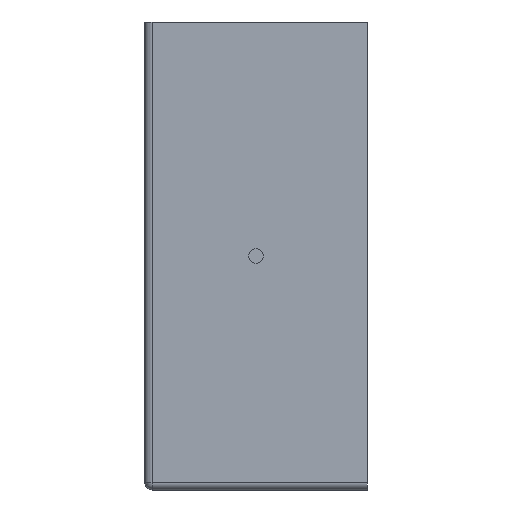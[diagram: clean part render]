
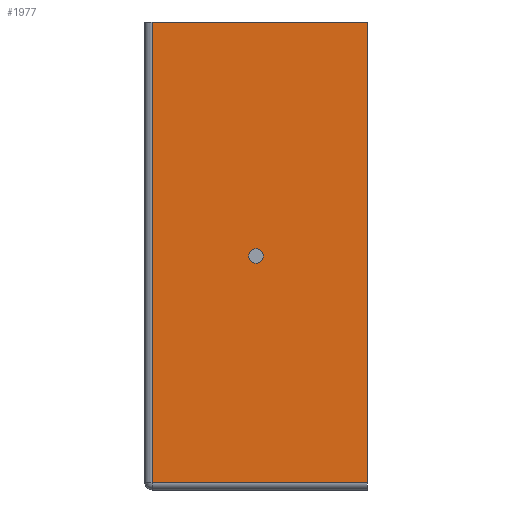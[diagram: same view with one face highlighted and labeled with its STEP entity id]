
A CAD part, left-side view. The second image highlights one B-rep face of the part: STEP entity #1977.
In plain terms, the highlighted planar face has unit normal (-1, 0, 0).
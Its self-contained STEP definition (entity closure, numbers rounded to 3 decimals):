
#79 = PLANE('',#80);
#80 = AXIS2_PLACEMENT_3D('',#81,#82,#83);
#81 = CARTESIAN_POINT('',(0.,0.,124.));
#82 = DIRECTION('',(0.,0.,-1.));
#83 = DIRECTION('',(-1.,0.,0.));
#163 = PLANE('',#164);
#164 = AXIS2_PLACEMENT_3D('',#165,#166,#167);
#165 = CARTESIAN_POINT('',(71.,-29.5,124.));
#166 = DIRECTION('',(0.,-1.,0.));
#167 = DIRECTION('',(1.,0.,0.));
#927 = EDGE_CURVE('',#928,#930,#932,.T.);
#928 = VERTEX_POINT('',#929);
#929 = CARTESIAN_POINT('',(-71.,-29.5,124.));
#930 = VERTEX_POINT('',#931);
#931 = CARTESIAN_POINT('',(-71.,-29.5,2.));
#932 = SURFACE_CURVE('',#933,(#937,#944),.PCURVE_S1.);
#933 = LINE('',#934,#935);
#934 = CARTESIAN_POINT('',(-71.,-29.5,124.));
#935 = VECTOR('',#936,1.);
#936 = DIRECTION('',(0.,0.,-1.));
#937 = PCURVE('',#163,#938);
#938 = DEFINITIONAL_REPRESENTATION('',(#939),#943);
#939 = LINE('',#940,#941);
#940 = CARTESIAN_POINT('',(-142.,0.));
#941 = VECTOR('',#942,1.);
#942 = DIRECTION('',(0.,-1.));
#943 = ( GEOMETRIC_REPRESENTATION_CONTEXT(2) 
PARAMETRIC_REPRESENTATION_CONTEXT() REPRESENTATION_CONTEXT('2D SPACE',''
  ) );
#944 = PCURVE('',#945,#950);
#945 = PLANE('',#946);
#946 = AXIS2_PLACEMENT_3D('',#947,#948,#949);
#947 = CARTESIAN_POINT('',(-71.,-29.5,124.));
#948 = DIRECTION('',(-1.,0.,0.));
#949 = DIRECTION('',(0.,0.,1.));
#950 = DEFINITIONAL_REPRESENTATION('',(#951),#955);
#951 = LINE('',#952,#953);
#952 = CARTESIAN_POINT('',(0.,0.));
#953 = VECTOR('',#954,1.);
#954 = DIRECTION('',(-1.,0.));
#955 = ( GEOMETRIC_REPRESENTATION_CONTEXT(2) 
PARAMETRIC_REPRESENTATION_CONTEXT() REPRESENTATION_CONTEXT('2D SPACE',''
  ) );
#974 = CYLINDRICAL_SURFACE('',#975,2.);
#975 = AXIS2_PLACEMENT_3D('',#976,#977,#978);
#976 = CARTESIAN_POINT('',(-69.,0.,2.));
#977 = DIRECTION('',(0.,1.,0.));
#978 = DIRECTION('',(0.,-0.,1.));
#1977 = ADVANCED_FACE('',(#1978,#2053),#945,.T.);
#1978 = FACE_BOUND('',#1979,.T.);
#1979 = EDGE_LOOP('',(#1980,#2003,#2031,#2052));
#1980 = ORIENTED_EDGE('',*,*,#1981,.T.);
#1981 = EDGE_CURVE('',#928,#1982,#1984,.T.);
#1982 = VERTEX_POINT('',#1983);
#1983 = CARTESIAN_POINT('',(-71.,27.5,124.));
#1984 = SURFACE_CURVE('',#1985,(#1989,#1996),.PCURVE_S1.);
#1985 = LINE('',#1986,#1987);
#1986 = CARTESIAN_POINT('',(-71.,-29.5,124.));
#1987 = VECTOR('',#1988,1.);
#1988 = DIRECTION('',(0.,1.,0.));
#1989 = PCURVE('',#945,#1990);
#1990 = DEFINITIONAL_REPRESENTATION('',(#1991),#1995);
#1991 = LINE('',#1992,#1993);
#1992 = CARTESIAN_POINT('',(0.,0.));
#1993 = VECTOR('',#1994,1.);
#1994 = DIRECTION('',(0.,1.));
#1995 = ( GEOMETRIC_REPRESENTATION_CONTEXT(2) 
PARAMETRIC_REPRESENTATION_CONTEXT() REPRESENTATION_CONTEXT('2D SPACE',''
  ) );
#1996 = PCURVE('',#79,#1997);
#1997 = DEFINITIONAL_REPRESENTATION('',(#1998),#2002);
#1998 = LINE('',#1999,#2000);
#1999 = CARTESIAN_POINT('',(71.,-29.5));
#2000 = VECTOR('',#2001,1.);
#2001 = DIRECTION('',(0.,1.));
#2002 = ( GEOMETRIC_REPRESENTATION_CONTEXT(2) 
PARAMETRIC_REPRESENTATION_CONTEXT() REPRESENTATION_CONTEXT('2D SPACE',''
  ) );
#2003 = ORIENTED_EDGE('',*,*,#2004,.T.);
#2004 = EDGE_CURVE('',#1982,#2005,#2007,.T.);
#2005 = VERTEX_POINT('',#2006);
#2006 = CARTESIAN_POINT('',(-71.,27.5,2.));
#2007 = SURFACE_CURVE('',#2008,(#2012,#2019),.PCURVE_S1.);
#2008 = LINE('',#2009,#2010);
#2009 = CARTESIAN_POINT('',(-71.,27.5,124.));
#2010 = VECTOR('',#2011,1.);
#2011 = DIRECTION('',(0.,0.,-1.));
#2012 = PCURVE('',#945,#2013);
#2013 = DEFINITIONAL_REPRESENTATION('',(#2014),#2018);
#2014 = LINE('',#2015,#2016);
#2015 = CARTESIAN_POINT('',(0.,57.));
#2016 = VECTOR('',#2017,1.);
#2017 = DIRECTION('',(-1.,0.));
#2018 = ( GEOMETRIC_REPRESENTATION_CONTEXT(2) 
PARAMETRIC_REPRESENTATION_CONTEXT() REPRESENTATION_CONTEXT('2D SPACE',''
  ) );
#2019 = PCURVE('',#2020,#2025);
#2020 = CYLINDRICAL_SURFACE('',#2021,2.);
#2021 = AXIS2_PLACEMENT_3D('',#2022,#2023,#2024);
#2022 = CARTESIAN_POINT('',(-69.,27.5,124.));
#2023 = DIRECTION('',(0.,0.,-1.));
#2024 = DIRECTION('',(-1.,0.,0.));
#2025 = DEFINITIONAL_REPRESENTATION('',(#2026),#2030);
#2026 = LINE('',#2027,#2028);
#2027 = CARTESIAN_POINT('',(0.,0.));
#2028 = VECTOR('',#2029,1.);
#2029 = DIRECTION('',(0.,1.));
#2030 = ( GEOMETRIC_REPRESENTATION_CONTEXT(2) 
PARAMETRIC_REPRESENTATION_CONTEXT() REPRESENTATION_CONTEXT('2D SPACE',''
  ) );
#2031 = ORIENTED_EDGE('',*,*,#2032,.T.);
#2032 = EDGE_CURVE('',#2005,#930,#2033,.T.);
#2033 = SURFACE_CURVE('',#2034,(#2038,#2045),.PCURVE_S1.);
#2034 = LINE('',#2035,#2036);
#2035 = CARTESIAN_POINT('',(-71.,-29.5,2.));
#2036 = VECTOR('',#2037,1.);
#2037 = DIRECTION('',(0.,-1.,0.));
#2038 = PCURVE('',#945,#2039);
#2039 = DEFINITIONAL_REPRESENTATION('',(#2040),#2044);
#2040 = LINE('',#2041,#2042);
#2041 = CARTESIAN_POINT('',(-122.,0.));
#2042 = VECTOR('',#2043,1.);
#2043 = DIRECTION('',(0.,-1.));
#2044 = ( GEOMETRIC_REPRESENTATION_CONTEXT(2) 
PARAMETRIC_REPRESENTATION_CONTEXT() REPRESENTATION_CONTEXT('2D SPACE',''
  ) );
#2045 = PCURVE('',#974,#2046);
#2046 = DEFINITIONAL_REPRESENTATION('',(#2047),#2051);
#2047 = LINE('',#2048,#2049);
#2048 = CARTESIAN_POINT('',(4.712,-29.5));
#2049 = VECTOR('',#2050,1.);
#2050 = DIRECTION('',(0.,-1.));
#2051 = ( GEOMETRIC_REPRESENTATION_CONTEXT(2) 
PARAMETRIC_REPRESENTATION_CONTEXT() REPRESENTATION_CONTEXT('2D SPACE',''
  ) );
#2052 = ORIENTED_EDGE('',*,*,#927,.F.);
#2053 = FACE_BOUND('',#2054,.T.);
#2054 = EDGE_LOOP('',(#2055));
#2055 = ORIENTED_EDGE('',*,*,#2056,.T.);
#2056 = EDGE_CURVE('',#2057,#2057,#2059,.T.);
#2057 = VERTEX_POINT('',#2058);
#2058 = CARTESIAN_POINT('',(-71.,0.,60.1));
#2059 = SURFACE_CURVE('',#2060,(#2065,#2076),.PCURVE_S1.);
#2060 = CIRCLE('',#2061,1.9);
#2061 = AXIS2_PLACEMENT_3D('',#2062,#2063,#2064);
#2062 = CARTESIAN_POINT('',(-71.,0.,62.));
#2063 = DIRECTION('',(1.,0.,0.));
#2064 = DIRECTION('',(0.,0.,-1.));
#2065 = PCURVE('',#945,#2066);
#2066 = DEFINITIONAL_REPRESENTATION('',(#2067),#2075);
#2067 = ( BOUNDED_CURVE() B_SPLINE_CURVE(2,(#2068,#2069,#2070,#2071,
#2072,#2073,#2074),.UNSPECIFIED.,.T.,.F.) B_SPLINE_CURVE_WITH_KNOTS((1,2
    ,2,2,2,1),(-2.094,0.,2.094,4.189,
6.283,8.378),.UNSPECIFIED.) CURVE() 
GEOMETRIC_REPRESENTATION_ITEM() RATIONAL_B_SPLINE_CURVE((1.,0.5,1.,0.5,
1.,0.5,1.)) REPRESENTATION_ITEM('') );
#2068 = CARTESIAN_POINT('',(-63.9,29.5));
#2069 = CARTESIAN_POINT('',(-63.9,32.791));
#2070 = CARTESIAN_POINT('',(-61.05,31.145));
#2071 = CARTESIAN_POINT('',(-58.2,29.5));
#2072 = CARTESIAN_POINT('',(-61.05,27.855));
#2073 = CARTESIAN_POINT('',(-63.9,26.209));
#2074 = CARTESIAN_POINT('',(-63.9,29.5));
#2075 = ( GEOMETRIC_REPRESENTATION_CONTEXT(2) 
PARAMETRIC_REPRESENTATION_CONTEXT() REPRESENTATION_CONTEXT('2D SPACE',''
  ) );
#2076 = PCURVE('',#2077,#2082);
#2077 = CYLINDRICAL_SURFACE('',#2078,1.9);
#2078 = AXIS2_PLACEMENT_3D('',#2079,#2080,#2081);
#2079 = CARTESIAN_POINT('',(-71.,0.,62.));
#2080 = DIRECTION('',(1.,0.,0.));
#2081 = DIRECTION('',(0.,0.,-1.));
#2082 = DEFINITIONAL_REPRESENTATION('',(#2083),#2087);
#2083 = LINE('',#2084,#2085);
#2084 = CARTESIAN_POINT('',(0.,0.));
#2085 = VECTOR('',#2086,1.);
#2086 = DIRECTION('',(1.,0.));
#2087 = ( GEOMETRIC_REPRESENTATION_CONTEXT(2) 
PARAMETRIC_REPRESENTATION_CONTEXT() REPRESENTATION_CONTEXT('2D SPACE',''
  ) );
